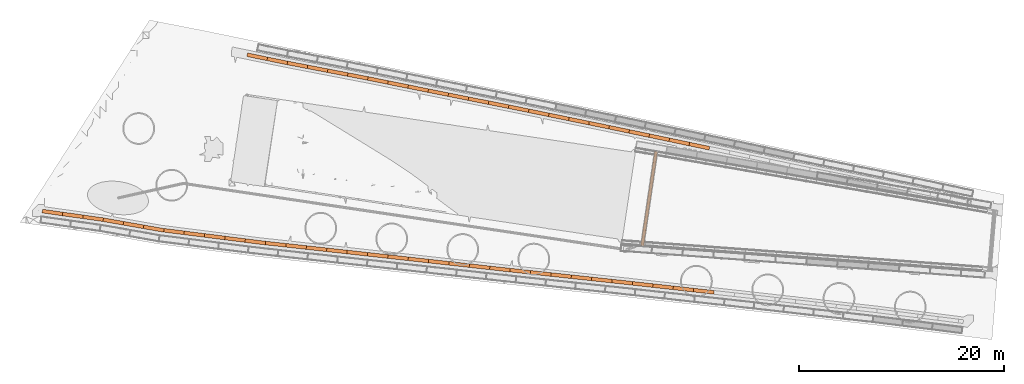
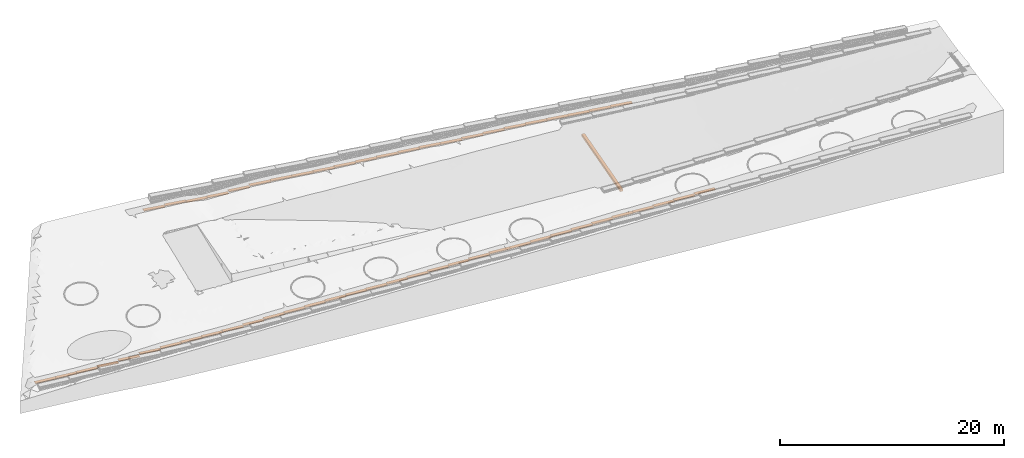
# Not in any storey, part 8 of 46: 57 proxies.
"""IFC4 model written with IfcOpenShell, lengths in metres."""

from ifc_helpers import new_model, si_unit, direction, frame, origin_with_axes, place, context, subcontext, project, spatial, polyline, outline, extrude, material, element, save


model = new_model("IFC4")

# Units and contexts
model_context = context("Model", 3, precision=1e-05, world=origin_with_axes(), true_north=direction((0.0, 1.0)))
body_context = subcontext(model_context, "Body", "Model", "MODEL_VIEW")
ifc_project = project(units=[si_unit("VOLUMEUNIT", "CUBIC_METRE"), si_unit("LENGTHUNIT", "METRE"), si_unit("AREAUNIT", "SQUARE_METRE")], contexts=[model_context])

# Site
site_placement = place(None, origin_with_axes())
site = spatial("IfcSite", under=ifc_project, at=site_placement, Name="Lares · Rua das Mercês · artigo 4771")

# Proxies
ifc_material_1 = material(Name="Caleiras · betão", Category="concrete")
proxy_1_placement = place(site_placement, frame((0.0, 0.0, 13.34), z_axis=(0.0, 0.0, 1.0), x_axis=(1.0, -1.03767253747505e-17, 0.0)))
element("IfcBuildingElementProxy", 1, at=proxy_1_placement, inside=site, material=ifc_material_1, Name="Interceção · caleira estacionamento", ObjectType="Interceção · caleira estacionamento", PredefinedType="USERDEFINED", context=body_context, shape_type="SweptSolid", body=[
    extrude(outline(polyline([(49.7868647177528, 11.8342194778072), (50.0836643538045, 11.7905162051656), (48.728557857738, 2.58765585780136), (48.4317582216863, 2.631359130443), (49.7868647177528, 11.8342194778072)])), origin_with_axes(), (0.0, 0.0, 1.0), 0.25),
])
ifc_material_2 = material(Name="Brita drenante", Category="stone")
proxy_2_placement = place(site_placement, frame((0.0, 0.0, 13.4738156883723), z_axis=(0.0, 0.0, 1.0), x_axis=(1.0, -1.03767253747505e-17, 0.0)))
element("IfcBuildingElementProxy", 2, at=proxy_2_placement, inside=site, material=ifc_material_2, Name="Limite north · vala de interceção", ObjectType="Limite north · vala de interceção", PredefinedType="USERDEFINED", context=body_context, shape_type="SweptSolid", body=[
    extrude(outline(polyline([(12.0458830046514, 21.0135119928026), (11.9733673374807, 20.6608911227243), (10.0143625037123, 21.0637559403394), (10.086878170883, 21.4163768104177), (12.0458830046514, 21.0135119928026)])), origin_with_axes(), (0.0, 0.0, 1.0), 0.06),
])
proxy_3_placement = place(site_placement, frame((0.0, 0.0, 13.5828101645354), z_axis=(0.0, 0.0, 1.0), x_axis=(1.0, -1.03767253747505e-17, 0.0)))
element("IfcBuildingElementProxy", 3, at=proxy_3_placement, inside=site, material=ifc_material_2, Name="Limite north · vala de interceção", ObjectType="Limite north · vala de interceção", PredefinedType="USERDEFINED", context=body_context, shape_type="SweptSolid", body=[
    extrude(outline(polyline([(13.7537541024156, 20.6622922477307), (14.0032633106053, 20.6143063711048), (13.935273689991, 20.2607849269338), (13.684631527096, 20.3089886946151), (13.6823685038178, 20.3094389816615), (11.9733673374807, 20.6608911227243), (12.0458830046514, 21.0135119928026), (13.7537541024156, 20.6622922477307)])), origin_with_axes(), (0.0, 0.0, 1.0), 0.06),
])
proxy_4_placement = place(site_placement, frame((0.0, 0.0, 13.5164708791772), z_axis=(0.0, 0.0, 1.0), x_axis=(1.0, -1.03767253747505e-17, 0.0)))
element("IfcBuildingElementProxy", 4, at=proxy_4_placement, inside=site, material=ifc_material_2, Name="Limite north · vala de interceção", ObjectType="Limite north · vala de interceção", PredefinedType="USERDEFINED", context=body_context, shape_type="SweptSolid", body=[
    extrude(outline(polyline([(15.9672713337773, 20.2365862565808), (15.899281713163, 19.8830648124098), (13.935273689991, 20.2607849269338), (14.0032633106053, 20.6143063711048), (15.9672713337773, 20.2365862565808)])), origin_with_axes(), (0.0, 0.0, 1.0), 0.06),
])
proxy_5_placement = place(site_placement, frame((0.0, 0.0, 13.558468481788), z_axis=(0.0, 0.0, 1.0), x_axis=(1.0, -1.03767253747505e-17, 0.0)))
element("IfcBuildingElementProxy", 5, at=proxy_5_placement, inside=site, material=ifc_material_2, Name="Limite north · vala de interceção", ObjectType="Limite north · vala de interceção", PredefinedType="USERDEFINED", context=body_context, shape_type="SweptSolid", body=[
    extrude(outline(polyline([(17.9312793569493, 19.8588661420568), (17.863289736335, 19.5053446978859), (15.899281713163, 19.8830648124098), (15.9672713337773, 20.2365862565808), (17.9312793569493, 19.8588661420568)])), origin_with_axes(), (0.0, 0.0, 1.0), 0.06),
])
proxy_6_placement = place(site_placement, frame((0.0, 0.0, 13.7632660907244), z_axis=(0.0, 0.0, 1.0), x_axis=(1.0, -1.03767253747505e-17, 0.0)))
element("IfcBuildingElementProxy", 6, at=proxy_6_placement, inside=site, material=ifc_material_2, Name="Limite north · vala de interceção", ObjectType="Limite north · vala de interceção", PredefinedType="USERDEFINED", context=body_context, shape_type="SweptSolid", body=[
    extrude(outline(polyline([(19.8952873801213, 19.4811460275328), (19.827297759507, 19.1276245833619), (17.863289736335, 19.5053446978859), (17.9312793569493, 19.8588661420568), (19.8952873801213, 19.4811460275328)])), origin_with_axes(), (0.0, 0.0, 1.0), 0.06),
])
proxy_7_placement = place(site_placement, frame((0.0, 0.0, 13.9369848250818), z_axis=(0.0, 0.0, 1.0), x_axis=(1.0, -1.03767253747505e-17, 0.0)))
element("IfcBuildingElementProxy", 7, at=proxy_7_placement, inside=site, material=ifc_material_2, Name="Limite north · vala de interceção", ObjectType="Limite north · vala de interceção", PredefinedType="USERDEFINED", context=body_context, shape_type="SweptSolid", body=[
    extrude(outline(polyline([(21.807899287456, 19.1133104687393), (21.8096475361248, 19.1129652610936), (21.8609432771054, 19.1025723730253), (21.7894571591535, 18.7497413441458), (21.7390346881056, 18.7599573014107), (19.827297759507, 19.1276245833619), (19.8952873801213, 19.4811460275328), (21.807899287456, 19.1133104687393)])), origin_with_axes(), (0.0, 0.0, 1.0), 0.06),
])
proxy_8_placement = place(site_placement, frame((0.0, 0.0, 13.9992573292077), z_axis=(0.0, 0.0, 1.0), x_axis=(1.0, -1.03767253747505e-17, 0.0)))
element("IfcBuildingElementProxy", 8, at=proxy_8_placement, inside=site, material=ifc_material_2, Name="Limite north · vala de interceção", ObjectType="Limite north · vala de interceção", PredefinedType="USERDEFINED", context=body_context, shape_type="SweptSolid", body=[
    extrude(outline(polyline([(23.8211156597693, 18.7054272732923), (23.7496295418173, 18.3525962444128), (21.7894571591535, 18.7497413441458), (21.8609432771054, 19.1025723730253), (23.8211156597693, 18.7054272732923)])), origin_with_axes(), (0.0, 0.0, 1.0), 0.06),
])
proxy_9_placement = place(site_placement, frame((0.0, 0.0, 14.0174718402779), z_axis=(0.0, 0.0, 1.0), x_axis=(1.0, -1.03767253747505e-17, 0.0)))
element("IfcBuildingElementProxy", 9, at=proxy_9_placement, inside=site, material=ifc_material_2, Name="Limite north · vala de interceção", ObjectType="Limite north · vala de interceção", PredefinedType="USERDEFINED", context=body_context, shape_type="SweptSolid", body=[
    extrude(outline(polyline([(25.7812880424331, 18.3082821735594), (25.7098019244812, 17.9554511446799), (23.7496295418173, 18.3525962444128), (23.8211156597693, 18.7054272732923), (25.7812880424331, 18.3082821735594)])), origin_with_axes(), (0.0, 0.0, 1.0), 0.06),
])
proxy_10_placement = place(site_placement, frame((0.0, 0.0, 14.0656124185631), z_axis=(0.0, 0.0, 1.0), x_axis=(1.0, -1.03767253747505e-17, 0.0)))
element("IfcBuildingElementProxy", 10, at=proxy_10_placement, inside=site, material=ifc_material_2, Name="Limite north · vala de interceção", ObjectType="Limite north · vala de interceção", PredefinedType="USERDEFINED", context=body_context, shape_type="SweptSolid", body=[
    extrude(outline(polyline([(27.565370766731, 17.9468141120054), (27.7410391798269, 17.9117680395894), (27.6706066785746, 17.5587251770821), (27.4946747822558, 17.593823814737), (27.494147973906, 17.5939297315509), (25.7098019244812, 17.9554511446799), (25.7812880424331, 18.3082821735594), (27.565370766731, 17.9468141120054)])), origin_with_axes(), (0.0, 0.0, 1.0), 0.06),
])
proxy_11_placement = place(site_placement, frame((0.0, 0.0, 14.1510970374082), z_axis=(0.0, 0.0, 1.0), x_axis=(1.0, -1.03767253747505e-17, 0.0)))
element("IfcBuildingElementProxy", 11, at=proxy_11_placement, inside=site, material=ifc_material_2, Name="Limite north · vala de interceção", ObjectType="Limite north · vala de interceção", PredefinedType="USERDEFINED", context=body_context, shape_type="SweptSolid", body=[
    extrude(outline(polyline([(29.7023884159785, 17.5204763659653), (29.6319559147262, 17.167433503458), (27.6706066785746, 17.5587251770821), (27.7410391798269, 17.9117680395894), (29.7023884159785, 17.5204763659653)])), origin_with_axes(), (0.0, 0.0, 1.0), 0.06),
])
proxy_12_placement = place(site_placement, frame((0.0, 0.0, 14.2234581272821), z_axis=(0.0, 0.0, 1.0), x_axis=(1.0, -1.03767253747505e-17, 0.0)))
element("IfcBuildingElementProxy", 12, at=proxy_12_placement, inside=site, material=ifc_material_2, Name="Limite north · vala de interceção", ObjectType="Limite north · vala de interceção", PredefinedType="USERDEFINED", context=body_context, shape_type="SweptSolid", body=[
    extrude(outline(polyline([(31.6637376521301, 17.1291846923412), (31.5933051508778, 16.7761418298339), (29.6319559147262, 17.167433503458), (29.7023884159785, 17.5204763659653), (31.6637376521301, 17.1291846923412)])), origin_with_axes(), (0.0, 0.0, 1.0), 0.06),
])
proxy_13_placement = place(site_placement, frame((0.0, 0.0, 14.2939755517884), z_axis=(0.0, 0.0, 1.0), x_axis=(1.0, -1.03767253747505e-17, 0.0)))
element("IfcBuildingElementProxy", 13, at=proxy_13_placement, inside=site, material=ifc_material_2, Name="Limite north · vala de interceção", ObjectType="Limite north · vala de interceção", PredefinedType="USERDEFINED", context=body_context, shape_type="SweptSolid", body=[
    extrude(outline(polyline([(33.6250868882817, 16.7378930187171), (33.5546543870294, 16.3848501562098), (31.5933051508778, 16.7761418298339), (31.6637376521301, 17.1291846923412), (33.6250868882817, 16.7378930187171)])), origin_with_axes(), (0.0, 0.0, 1.0), 0.06),
])
proxy_14_placement = place(site_placement, frame((0.0, 0.0, 14.3644929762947), z_axis=(0.0, 0.0, 1.0), x_axis=(1.0, -1.03767253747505e-17, 0.0)))
element("IfcBuildingElementProxy", 14, at=proxy_14_placement, inside=site, material=ifc_material_2, Name="Limite north · vala de interceção", ObjectType="Limite north · vala de interceção", PredefinedType="USERDEFINED", context=body_context, shape_type="SweptSolid", body=[
    extrude(outline(polyline([(35.5864361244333, 16.346601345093), (35.5160036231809, 15.9935584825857), (33.5546543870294, 16.3848501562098), (33.6250868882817, 16.7378930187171), (35.5864361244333, 16.346601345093)])), origin_with_axes(), (0.0, 0.0, 1.0), 0.06),
])
proxy_15_placement = place(site_placement, frame((0.0, 0.0, 14.4349426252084), z_axis=(0.0, 0.0, 1.0), x_axis=(1.0, -1.03767253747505e-17, 0.0)))
element("IfcBuildingElementProxy", 15, at=proxy_15_placement, inside=site, material=ifc_material_2, Name="Limite north · vala de interceção", ObjectType="Limite north · vala de interceção", PredefinedType="USERDEFINED", context=body_context, shape_type="SweptSolid", body=[
    extrude(outline(polyline([(36.3861439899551, 16.187058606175), (36.3870338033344, 16.1868787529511), (37.5474916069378, 15.9492741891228), (37.4752794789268, 15.5965910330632), (36.3152663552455, 15.83410454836), (35.5160036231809, 15.9935584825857), (35.5864361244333, 16.346601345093), (36.3861439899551, 16.187058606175)])), origin_with_axes(), (0.0, 0.0, 1.0), 0.06),
])
proxy_16_placement = place(site_placement, frame((0.0, 0.0, 14.437421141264), z_axis=(0.0, 0.0, 1.0), x_axis=(1.0, -1.03767253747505e-17, 0.0)))
element("IfcBuildingElementProxy", 16, at=proxy_16_placement, inside=site, material=ifc_material_2, Name="Limite north · vala de interceção", ObjectType="Limite north · vala de interceção", PredefinedType="USERDEFINED", context=body_context, shape_type="SweptSolid", body=[
    extrude(outline(polyline([(39.5068424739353, 15.548095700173), (39.4346303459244, 15.1954125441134), (37.4752794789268, 15.5965910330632), (37.5474916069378, 15.9492741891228), (39.5068424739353, 15.548095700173)])), origin_with_axes(), (0.0, 0.0, 1.0), 0.06),
])
proxy_17_placement = place(site_placement, frame((0.0, 0.0, 14.5450334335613), z_axis=(0.0, 0.0, 1.0), x_axis=(1.0, -1.03767253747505e-17, 0.0)))
element("IfcBuildingElementProxy", 17, at=proxy_17_placement, inside=site, material=ifc_material_2, Name="Limite north · vala de interceção", ObjectType="Limite north · vala de interceção", PredefinedType="USERDEFINED", context=body_context, shape_type="SweptSolid", body=[
    extrude(outline(polyline([(41.4661933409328, 15.1469172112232), (41.3939812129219, 14.7942340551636), (39.4346303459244, 15.1954125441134), (39.5068424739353, 15.548095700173), (41.4661933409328, 15.1469172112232)])), origin_with_axes(), (0.0, 0.0, 1.0), 0.06),
])
proxy_18_placement = place(site_placement, frame((0.0, 0.0, 14.6526457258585), z_axis=(0.0, 0.0, 1.0), x_axis=(1.0, -1.03767253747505e-17, 0.0)))
element("IfcBuildingElementProxy", 18, at=proxy_18_placement, inside=site, material=ifc_material_2, Name="Limite north · vala de interceção", ObjectType="Limite north · vala de interceção", PredefinedType="USERDEFINED", context=body_context, shape_type="SweptSolid", body=[
    extrude(outline(polyline([(43.4255442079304, 14.7457387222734), (43.3533320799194, 14.3930555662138), (41.3939812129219, 14.7942340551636), (41.4661933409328, 15.1469172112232), (43.4255442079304, 14.7457387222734)])), origin_with_axes(), (0.0, 0.0, 1.0), 0.06),
])
proxy_19_placement = place(site_placement, frame((0.0, 0.0, 14.7427260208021), z_axis=(0.0, 0.0, 1.0), x_axis=(1.0, -1.03767253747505e-17, 0.0)))
element("IfcBuildingElementProxy", 19, at=proxy_19_placement, inside=site, material=ifc_material_2, Name="Limite north · vala de interceção", ObjectType="Limite north · vala de interceção", PredefinedType="USERDEFINED", context=body_context, shape_type="SweptSolid", body=[
    extrude(outline(polyline([(45.3848950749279, 14.3445602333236), (45.3126829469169, 13.991877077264), (43.3533320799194, 14.3930555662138), (43.4255442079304, 14.7457387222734), (45.3848950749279, 14.3445602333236)])), origin_with_axes(), (0.0, 0.0, 1.0), 0.06),
])
proxy_20_placement = place(site_placement, frame((0.0, 0.0, 14.8053566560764), z_axis=(0.0, 0.0, 1.0), x_axis=(1.0, -1.03767253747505e-17, 0.0)))
element("IfcBuildingElementProxy", 20, at=proxy_20_placement, inside=site, material=ifc_material_2, Name="Limite north · vala de interceção", ObjectType="Limite north · vala de interceção", PredefinedType="USERDEFINED", context=body_context, shape_type="SweptSolid", body=[
    extrude(outline(polyline([(45.8690664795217, 14.2454257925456), (45.8699313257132, 14.2452465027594), (47.3436109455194, 13.9359676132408), (47.2696691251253, 13.5836430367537), (45.7964217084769, 13.8928312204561), (45.3126829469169, 13.991877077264), (45.3848950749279, 14.3445602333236), (45.8690664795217, 14.2454257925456)])), origin_with_axes(), (0.0, 0.0, 1.0), 0.06),
])
proxy_21_placement = place(site_placement, frame((0.0, 0.0, 14.8355579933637), z_axis=(0.0, 0.0, 1.0), x_axis=(1.0, -1.03767253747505e-17, 0.0)))
element("IfcBuildingElementProxy", 21, at=proxy_21_placement, inside=site, material=ifc_material_2, Name="Limite north · vala de interceção", ObjectType="Limite north · vala de interceção", PredefinedType="USERDEFINED", context=body_context, shape_type="SweptSolid", body=[
    extrude(outline(polyline([(49.3009697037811, 13.5251797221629), (49.227027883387, 13.1728551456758), (47.2696691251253, 13.5836430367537), (47.3436109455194, 13.9359676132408), (49.3009697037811, 13.5251797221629)])), origin_with_axes(), (0.0, 0.0, 1.0), 0.06),
])
proxy_22_placement = place(site_placement, frame((0.0, 0.0, 14.862859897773), z_axis=(0.0, 0.0, 1.0), x_axis=(1.0, -1.03767253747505e-17, 0.0)))
element("IfcBuildingElementProxy", 22, at=proxy_22_placement, inside=site, material=ifc_material_2, Name="Limite north · vala de interceção", ObjectType="Limite north · vala de interceção", PredefinedType="USERDEFINED", context=body_context, shape_type="SweptSolid", body=[
    extrude(outline(polyline([(51.2583284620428, 13.1143918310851), (51.1843866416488, 12.762067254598), (49.227027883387, 13.1728551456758), (49.3009697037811, 13.5251797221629), (51.2583284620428, 13.1143918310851)])), origin_with_axes(), (0.0, 0.0, 1.0), 0.06),
])
proxy_23_placement = place(site_placement, frame((0.0, 0.0, 14.9166186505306), z_axis=(0.0, 0.0, 1.0), x_axis=(1.0, -1.03767253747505e-17, 0.0)))
element("IfcBuildingElementProxy", 23, at=proxy_23_placement, inside=site, material=ifc_material_2, Name="Limite north · vala de interceção", ObjectType="Limite north · vala de interceção", PredefinedType="USERDEFINED", context=body_context, shape_type="SweptSolid", body=[
    extrude(outline(polyline([(53.2156872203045, 12.7036039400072), (53.1417453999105, 12.3512793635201), (51.1843866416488, 12.762067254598), (51.2583284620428, 13.1143918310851), (53.2156872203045, 12.7036039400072)])), origin_with_axes(), (0.0, 0.0, 1.0), 0.06),
])
proxy_24_placement = place(site_placement, frame((0.0, 0.0, 14.9682467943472), z_axis=(0.0, 0.0, 1.0), x_axis=(1.0, -1.03767253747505e-17, 0.0)))
element("IfcBuildingElementProxy", 24, at=proxy_24_placement, inside=site, material=ifc_material_2, Name="Limite north · vala de interceção", ObjectType="Limite north · vala de interceção", PredefinedType="USERDEFINED", context=body_context, shape_type="SweptSolid", body=[
    extrude(outline(polyline([(55.1730459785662, 12.2928160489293), (55.0991041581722, 11.9404914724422), (53.1417453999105, 12.3512793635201), (53.2156872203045, 12.7036039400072), (55.1730459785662, 12.2928160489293)])), origin_with_axes(), (0.0, 0.0, 1.0), 0.06),
])
proxy_25_placement = place(site_placement, frame((0.0, 0.0, 10.921681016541), z_axis=(0.0, 0.0, 1.0), x_axis=(1.0, -1.03767253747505e-17, 0.0)))
element("IfcBuildingElementProxy", 25, at=proxy_25_placement, inside=site, material=ifc_material_2, Name="Limite south · vala de interceção", ObjectType="Limite south · vala de interceção", PredefinedType="USERDEFINED", context=body_context, shape_type="SweptSolid", body=[
    extrude(outline(polyline([(-7.92506020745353, 5.88610903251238), (-7.97522409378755, 5.52962118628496), (-9.95571212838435, 5.80830944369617), (-9.90554824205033, 6.1647972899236), (-7.92506020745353, 5.88610903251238)])), origin_with_axes(), (0.0, 0.0, 1.0), 0.06),
])
proxy_26_placement = place(site_placement, frame((0.0, 0.0, 10.9393821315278), z_axis=(0.0, 0.0, 1.0), x_axis=(1.0, -1.03767253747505e-17, 0.0)))
element("IfcBuildingElementProxy", 26, at=proxy_26_placement, inside=site, material=ifc_material_2, Name="Limite south · vala de interceção", ObjectType="Limite south · vala de interceção", PredefinedType="USERDEFINED", context=body_context, shape_type="SweptSolid", body=[
    extrude(outline(polyline([(-5.94457217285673, 5.60742077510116), (-5.99473605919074, 5.25093292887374), (-7.97522409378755, 5.52962118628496), (-7.92506020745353, 5.88610903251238), (-5.94457217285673, 5.60742077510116)])), origin_with_axes(), (0.0, 0.0, 1.0), 0.06),
])
proxy_27_placement = place(site_placement, frame((0.0, 0.0, 10.9819497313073), z_axis=(0.0, 0.0, 1.0), x_axis=(1.0, -1.03767253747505e-17, 0.0)))
element("IfcBuildingElementProxy", 27, at=proxy_27_placement, inside=site, material=ifc_material_2, Name="Limite south · vala de interceção", ObjectType="Limite south · vala de interceção", PredefinedType="USERDEFINED", context=body_context, shape_type="SweptSolid", body=[
    extrude(outline(polyline([(-4.0119916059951, 5.33547391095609), (-4.0057745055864, 5.33448790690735), (-3.95813205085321, 5.32607551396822), (-4.02073013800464, 4.97155967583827), (-4.06527266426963, 4.97942470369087), (-5.99473605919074, 5.25093292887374), (-5.94457217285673, 5.60742077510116), (-4.0119916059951, 5.33547391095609)])), origin_with_axes(), (0.0, 0.0, 1.0), 0.06),
])
proxy_28_placement = place(site_placement, frame((0.0, 0.0, 11.0965665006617), z_axis=(0.0, 0.0, 1.0), x_axis=(1.0, -1.03767253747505e-17, 0.0)))
element("IfcBuildingElementProxy", 28, at=proxy_28_placement, inside=site, material=ifc_material_2, Name="Limite south · vala de interceção", ObjectType="Limite south · vala de interceção", PredefinedType="USERDEFINED", context=body_context, shape_type="SweptSolid", body=[
    extrude(outline(polyline([(-1.98859961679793, 4.97830836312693), (-2.05119770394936, 4.62379252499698), (-4.02073013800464, 4.97155967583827), (-3.95813205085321, 5.32607551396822), (-1.98859961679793, 4.97830836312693)])), origin_with_axes(), (0.0, 0.0, 1.0), 0.06),
])
proxy_29_placement = place(site_placement, frame((0.0, 0.0, 11.314682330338), z_axis=(0.0, 0.0, 1.0), x_axis=(1.0, -1.03767253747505e-17, 0.0)))
element("IfcBuildingElementProxy", 29, at=proxy_29_placement, inside=site, material=ifc_material_2, Name="Limite south · vala de interceção", ObjectType="Limite south · vala de interceção", PredefinedType="USERDEFINED", context=body_context, shape_type="SweptSolid", body=[
    extrude(outline(polyline([(-0.019067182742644, 4.63054121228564), (-0.081665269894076, 4.27602537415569), (-2.05119770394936, 4.62379252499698), (-1.98859961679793, 4.97830836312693), (-0.019067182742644, 4.63054121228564)])), origin_with_axes(), (0.0, 0.0, 1.0), 0.06),
])
proxy_30_placement = place(site_placement, frame((0.0, 0.0, 11.5619240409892), z_axis=(0.0, 0.0, 1.0), x_axis=(1.0, -1.03767253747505e-17, 0.0)))
element("IfcBuildingElementProxy", 30, at=proxy_30_placement, inside=site, material=ifc_material_2, Name="Limite south · vala de interceção", ObjectType="Limite south · vala de interceção", PredefinedType="USERDEFINED", context=body_context, shape_type="SweptSolid", body=[
    extrude(outline(polyline([(1.69864220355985, 4.32723932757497), (1.94361428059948, 4.29622234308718), (1.89839413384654, 3.93907372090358), (1.64906149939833, 3.97064281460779), (1.64037252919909, 3.97195920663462), (-0.0816652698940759, 4.27602537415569), (-0.019067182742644, 4.63054121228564), (1.69864220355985, 4.32723932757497)])), origin_with_axes(), (0.0, 0.0, 1.0), 0.06),
])
proxy_31_placement = place(site_placement, frame((0.0, 0.0, 11.7044998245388), z_axis=(0.0, 0.0, 1.0), x_axis=(1.0, -1.03767253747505e-17, 0.0)))
element("IfcBuildingElementProxy", 31, at=proxy_31_placement, inside=site, material=ifc_material_2, Name="Limite south · vala de interceção", ObjectType="Limite south · vala de interceção", PredefinedType="USERDEFINED", context=body_context, shape_type="SweptSolid", body=[
    extrude(outline(polyline([(3.92777329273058, 4.04499930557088), (3.88255314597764, 3.68785068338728), (1.89839413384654, 3.93907372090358), (1.94361428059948, 4.29622234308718), (3.92777329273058, 4.04499930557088)])), origin_with_axes(), (0.0, 0.0, 1.0), 0.06),
])
proxy_32_placement = place(site_placement, frame((0.0, 0.0, 11.7661044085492), z_axis=(0.0, 0.0, 1.0), x_axis=(1.0, -1.03767253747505e-17, 0.0)))
element("IfcBuildingElementProxy", 32, at=proxy_32_placement, inside=site, material=ifc_material_2, Name="Limite south · vala de interceção", ObjectType="Limite south · vala de interceção", PredefinedType="USERDEFINED", context=body_context, shape_type="SweptSolid", body=[
    extrude(outline(polyline([(5.91193230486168, 3.79377626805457), (5.86671215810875, 3.43662764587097), (3.88255314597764, 3.68785068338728), (3.92777329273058, 4.04499930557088), (5.91193230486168, 3.79377626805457)])), origin_with_axes(), (0.0, 0.0, 1.0), 0.06),
])
proxy_33_placement = place(site_placement, frame((0.0, 0.0, 11.8277089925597), z_axis=(0.0, 0.0, 1.0), x_axis=(1.0, -1.03767253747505e-17, 0.0)))
element("IfcBuildingElementProxy", 33, at=proxy_33_placement, inside=site, material=ifc_material_2, Name="Limite south · vala de interceção", ObjectType="Limite south · vala de interceção", PredefinedType="USERDEFINED", context=body_context, shape_type="SweptSolid", body=[
    extrude(outline(polyline([(7.89609131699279, 3.54255323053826), (7.85087117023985, 3.18540460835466), (5.86671215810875, 3.43662764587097), (5.91193230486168, 3.79377626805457), (7.89609131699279, 3.54255323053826)])), origin_with_axes(), (0.0, 0.0, 1.0), 0.06),
])
proxy_34_placement = place(site_placement, frame((0.0, 0.0, 11.8893135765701), z_axis=(0.0, 0.0, 1.0), x_axis=(1.0, -1.03767253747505e-17, 0.0)))
element("IfcBuildingElementProxy", 34, at=proxy_34_placement, inside=site, material=ifc_material_2, Name="Limite south · vala de interceção", ObjectType="Limite south · vala de interceção", PredefinedType="USERDEFINED", context=body_context, shape_type="SweptSolid", body=[
    extrude(outline(polyline([(9.88025032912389, 3.29133019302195), (9.83503018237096, 2.93418157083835), (7.85087117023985, 3.18540460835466), (7.89609131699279, 3.54255323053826), (9.88025032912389, 3.29133019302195)])), origin_with_axes(), (0.0, 0.0, 1.0), 0.06),
])
proxy_35_placement = place(site_placement, frame((0.0, 0.0, 12.0238253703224), z_axis=(0.0, 0.0, 1.0), x_axis=(1.0, -1.03767253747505e-17, 0.0)))
element("IfcBuildingElementProxy", 35, at=proxy_35_placement, inside=site, material=ifc_material_2, Name="Limite south · vala de interceção", ObjectType="Limite south · vala de interceção", PredefinedType="USERDEFINED", context=body_context, shape_type="SweptSolid", body=[
    extrude(outline(polyline([(11.2335174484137, 3.11998713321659), (11.8627287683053, 3.05061714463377), (11.8232781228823, 2.6927852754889), (11.192623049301, 2.76231443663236), (11.189738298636, 2.762656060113), (9.83503018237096, 2.93418157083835), (9.88025032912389, 3.29133019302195), (11.2335174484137, 3.11998713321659)])), origin_with_axes(), (0.0, 0.0, 1.0), 0.06),
])
proxy_36_placement = place(site_placement, frame((0.0, 0.0, 12.1612662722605), z_axis=(0.0, 0.0, 1.0), x_axis=(1.0, -1.03767253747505e-17, 0.0)))
element("IfcBuildingElementProxy", 36, at=proxy_36_placement, inside=site, material=ifc_material_2, Name="Limite south · vala de interceção", ObjectType="Limite south · vala de interceção", PredefinedType="USERDEFINED", context=body_context, shape_type="SweptSolid", body=[
    extrude(outline(polyline([(13.8506835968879, 2.83144689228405), (13.8112329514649, 2.47361502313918), (11.8232781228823, 2.6927852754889), (11.8627287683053, 3.05061714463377), (13.8506835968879, 2.83144689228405)])), origin_with_axes(), (0.0, 0.0, 1.0), 0.06),
])
proxy_37_placement = place(site_placement, frame((0.0, 0.0, 12.2467318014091), z_axis=(0.0, 0.0, 1.0), x_axis=(1.0, -1.03767253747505e-17, 0.0)))
element("IfcBuildingElementProxy", 37, at=proxy_37_placement, inside=site, material=ifc_material_2, Name="Limite south · vala de interceção", ObjectType="Limite south · vala de interceção", PredefinedType="USERDEFINED", context=body_context, shape_type="SweptSolid", body=[
    extrude(outline(polyline([(15.8386384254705, 2.61227663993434), (15.7991877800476, 2.25444477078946), (13.8112329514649, 2.47361502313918), (13.8506835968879, 2.83144689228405), (15.8386384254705, 2.61227663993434)])), origin_with_axes(), (0.0, 0.0, 1.0), 0.06),
])
proxy_38_placement = place(site_placement, frame((0.0, 0.0, 12.3321973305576), z_axis=(0.0, 0.0, 1.0), x_axis=(1.0, -1.03767253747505e-17, 0.0)))
element("IfcBuildingElementProxy", 38, at=proxy_38_placement, inside=site, material=ifc_material_2, Name="Limite south · vala de interceção", ObjectType="Limite south · vala de interceção", PredefinedType="USERDEFINED", context=body_context, shape_type="SweptSolid", body=[
    extrude(outline(polyline([(17.8265932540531, 2.39310638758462), (17.7871426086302, 2.03527451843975), (15.7991877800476, 2.25444477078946), (15.8386384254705, 2.61227663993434), (17.8265932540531, 2.39310638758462)])), origin_with_axes(), (0.0, 0.0, 1.0), 0.06),
])
proxy_39_placement = place(site_placement, frame((0.0, 0.0, 12.4130196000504), z_axis=(0.0, 0.0, 1.0), x_axis=(1.0, -1.03767253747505e-17, 0.0)))
element("IfcBuildingElementProxy", 39, at=proxy_39_placement, inside=site, material=ifc_material_2, Name="Limite south · vala de interceção", ObjectType="Limite south · vala de interceção", PredefinedType="USERDEFINED", context=body_context, shape_type="SweptSolid", body=[
    extrude(outline(polyline([(19.8145480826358, 2.1739361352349), (19.7750974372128, 1.81610426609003), (17.7871426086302, 2.03527451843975), (17.8265932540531, 2.39310638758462), (19.8145480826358, 2.1739361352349)])), origin_with_axes(), (0.0, 0.0, 1.0), 0.06),
])
proxy_40_placement = place(site_placement, frame((0.0, 0.0, 12.4859319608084), z_axis=(0.0, 0.0, 1.0), x_axis=(1.0, -1.03767253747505e-17, 0.0)))
element("IfcBuildingElementProxy", 40, at=proxy_40_placement, inside=site, material=ifc_material_2, Name="Limite south · vala de interceção", ObjectType="Limite south · vala de interceção", PredefinedType="USERDEFINED", context=body_context, shape_type="SweptSolid", body=[
    extrude(outline(polyline([(21.8025029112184, 1.95476588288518), (21.7630522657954, 1.59693401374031), (19.7750974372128, 1.81610426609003), (19.8145480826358, 2.1739361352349), (21.8025029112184, 1.95476588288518)])), origin_with_axes(), (0.0, 0.0, 1.0), 0.06),
])
proxy_41_placement = place(site_placement, frame((0.0, 0.0, 12.5417426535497), z_axis=(0.0, 0.0, 1.0), x_axis=(1.0, -1.03767253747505e-17, 0.0)))
element("IfcBuildingElementProxy", 41, at=proxy_41_placement, inside=site, material=ifc_material_2, Name="Limite south · vala de interceção", ObjectType="Limite south · vala de interceção", PredefinedType="USERDEFINED", context=body_context, shape_type="SweptSolid", body=[
    extrude(outline(polyline([(23.621795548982, 1.75419048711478), (23.6220143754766, 1.7541662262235), (23.7906536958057, 1.73536508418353), (23.7507653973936, 1.3775817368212), (23.582235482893, 1.39637068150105), (21.7630522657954, 1.59693401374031), (21.8025029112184, 1.95476588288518), (23.621795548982, 1.75419048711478)])), origin_with_axes(), (0.0, 0.0, 1.0), 0.06),
])
proxy_42_placement = place(site_placement, frame((0.0, 0.0, 12.6188147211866), z_axis=(0.0, 0.0, 1.0), x_axis=(1.0, -1.03767253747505e-17, 0.0)))
element("IfcBuildingElementProxy", 42, at=proxy_42_placement, inside=site, material=ifc_material_2, Name="Limite south · vala de interceção", ObjectType="Limite south · vala de interceção", PredefinedType="USERDEFINED", context=body_context, shape_type="SweptSolid", body=[
    extrude(outline(polyline([(25.7783389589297, 1.5137634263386), (25.7384506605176, 1.15598007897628), (23.7507653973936, 1.3775817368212), (23.7906536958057, 1.73536508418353), (25.7783389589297, 1.5137634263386)])), origin_with_axes(), (0.0, 0.0, 1.0), 0.06),
])
proxy_43_placement = place(site_placement, frame((0.0, 0.0, 12.7191830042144), z_axis=(0.0, 0.0, 1.0), x_axis=(1.0, -1.03767253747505e-17, 0.0)))
element("IfcBuildingElementProxy", 43, at=proxy_43_placement, inside=site, material=ifc_material_2, Name="Limite south · vala de interceção", ObjectType="Limite south · vala de interceção", PredefinedType="USERDEFINED", context=body_context, shape_type="SweptSolid", body=[
    extrude(outline(polyline([(27.7660242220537, 1.29216176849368), (27.7261359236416, 0.934378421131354), (25.7384506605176, 1.15598007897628), (25.7783389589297, 1.5137634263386), (27.7660242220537, 1.29216176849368)])), origin_with_axes(), (0.0, 0.0, 1.0), 0.06),
])
proxy_44_placement = place(site_placement, frame((0.0, 0.0, 12.8193544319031), z_axis=(0.0, 0.0, 1.0), x_axis=(1.0, -1.03767253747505e-17, 0.0)))
element("IfcBuildingElementProxy", 44, at=proxy_44_placement, inside=site, material=ifc_material_2, Name="Limite south · vala de interceção", ObjectType="Limite south · vala de interceção", PredefinedType="USERDEFINED", context=body_context, shape_type="SweptSolid", body=[
    extrude(outline(polyline([(29.7537094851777, 1.07056011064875), (29.7138211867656, 0.712776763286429), (27.7261359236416, 0.934378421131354), (27.7660242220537, 1.29216176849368), (29.7537094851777, 1.07056011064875)])), origin_with_axes(), (0.0, 0.0, 1.0), 0.06),
])
proxy_45_placement = place(site_placement, frame((0.0, 0.0, 12.9183907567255), z_axis=(0.0, 0.0, 1.0), x_axis=(1.0, -1.03767253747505e-17, 0.0)))
element("IfcBuildingElementProxy", 45, at=proxy_45_placement, inside=site, material=ifc_material_2, Name="Limite south · vala de interceção", ObjectType="Limite south · vala de interceção", PredefinedType="USERDEFINED", context=body_context, shape_type="SweptSolid", body=[
    extrude(outline(polyline([(31.7413947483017, 0.848958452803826), (31.7015064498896, 0.491175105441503), (29.7138211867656, 0.712776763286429), (29.7537094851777, 1.07056011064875), (31.7413947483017, 0.848958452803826)])), origin_with_axes(), (0.0, 0.0, 1.0), 0.06),
])
proxy_46_placement = place(site_placement, frame((0.0, 0.0, 13.0174270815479), z_axis=(0.0, 0.0, 1.0), x_axis=(1.0, -1.03767253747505e-17, 0.0)))
element("IfcBuildingElementProxy", 46, at=proxy_46_placement, inside=site, material=ifc_material_2, Name="Limite south · vala de interceção", ObjectType="Limite south · vala de interceção", PredefinedType="USERDEFINED", context=body_context, shape_type="SweptSolid", body=[
    extrude(outline(polyline([(33.7290800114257, 0.627356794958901), (33.6891917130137, 0.269573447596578), (31.7015064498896, 0.491175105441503), (31.7413947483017, 0.848958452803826), (33.7290800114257, 0.627356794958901)])), origin_with_axes(), (0.0, 0.0, 1.0), 0.06),
])
proxy_47_placement = place(site_placement, frame((0.0, 0.0, 13.1164634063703), z_axis=(0.0, 0.0, 1.0), x_axis=(1.0, -1.03767253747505e-17, 0.0)))
element("IfcBuildingElementProxy", 47, at=proxy_47_placement, inside=site, material=ifc_material_2, Name="Limite south · vala de interceção", ObjectType="Limite south · vala de interceção", PredefinedType="USERDEFINED", context=body_context, shape_type="SweptSolid", body=[
    extrude(outline(polyline([(35.2866373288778, 0.453708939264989), (35.7162568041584, 0.407488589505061), (35.6777486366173, 0.0495540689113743), (35.2477840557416, 0.095811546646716), (35.247093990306, 0.0958871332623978), (33.6891917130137, 0.269573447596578), (33.7290800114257, 0.627356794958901), (35.2866373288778, 0.453708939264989)])), origin_with_axes(), (0.0, 0.0, 1.0), 0.06),
])
proxy_48_placement = place(site_placement, frame((0.0, 0.0, 13.1293433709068), z_axis=(0.0, 0.0, 1.0), x_axis=(1.0, -1.03767253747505e-17, 0.0)))
element("IfcBuildingElementProxy", 48, at=proxy_48_placement, inside=site, material=ifc_material_2, Name="Limite south · vala de interceção", ObjectType="Limite south · vala de interceção", PredefinedType="USERDEFINED", context=body_context, shape_type="SweptSolid", body=[
    extrude(outline(polyline([(37.7047819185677, 0.19355432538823), (37.6662737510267, -0.164380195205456), (35.6777486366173, 0.0495540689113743), (35.7162568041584, 0.407488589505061), (37.7047819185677, 0.19355432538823)])), origin_with_axes(), (0.0, 0.0, 1.0), 0.06),
])
proxy_49_placement = place(site_placement, frame((0.0, 0.0, 13.2167736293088), z_axis=(0.0, 0.0, 1.0), x_axis=(1.0, -1.03767253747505e-17, 0.0)))
element("IfcBuildingElementProxy", 49, at=proxy_49_placement, inside=site, material=ifc_material_2, Name="Limite south · vala de interceção", ObjectType="Limite south · vala de interceção", PredefinedType="USERDEFINED", context=body_context, shape_type="SweptSolid", body=[
    extrude(outline(polyline([(39.6933070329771, -0.0203799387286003), (39.6547988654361, -0.378314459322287), (37.6662737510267, -0.164380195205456), (37.7047819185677, 0.19355432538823), (39.6933070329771, -0.0203799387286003)])), origin_with_axes(), (0.0, 0.0, 1.0), 0.06),
])
proxy_50_placement = place(site_placement, frame((0.0, 0.0, 13.3080985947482), z_axis=(0.0, 0.0, 1.0), x_axis=(1.0, -1.03767253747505e-17, 0.0)))
element("IfcBuildingElementProxy", 50, at=proxy_50_placement, inside=site, material=ifc_material_2, Name="Limite south · vala de interceção", ObjectType="Limite south · vala de interceção", PredefinedType="USERDEFINED", context=body_context, shape_type="SweptSolid", body=[
    extrude(outline(polyline([(41.6818321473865, -0.234314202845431), (41.6433239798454, -0.592248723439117), (39.6547988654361, -0.378314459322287), (39.6933070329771, -0.0203799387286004), (41.6818321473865, -0.234314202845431)])), origin_with_axes(), (0.0, 0.0, 1.0), 0.06),
])
proxy_51_placement = place(site_placement, frame((0.0, 0.0, 13.4083087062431), z_axis=(0.0, 0.0, 1.0), x_axis=(1.0, -1.03767253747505e-17, 0.0)))
element("IfcBuildingElementProxy", 51, at=proxy_51_placement, inside=site, material=ifc_material_2, Name="Limite south · vala de interceção", ObjectType="Limite south · vala de interceção", PredefinedType="USERDEFINED", context=body_context, shape_type="SweptSolid", body=[
    extrude(outline(polyline([(43.6703572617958, -0.448248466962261), (43.6318490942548, -0.806182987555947), (41.6433239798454, -0.592248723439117), (41.6818321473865, -0.234314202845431), (43.6703572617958, -0.448248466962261)])), origin_with_axes(), (0.0, 0.0, 1.0), 0.06),
])
proxy_52_placement = place(site_placement, frame((0.0, 0.0, 13.508518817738), z_axis=(0.0, 0.0, 1.0), x_axis=(1.0, -1.03767253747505e-17, 0.0)))
element("IfcBuildingElementProxy", 52, at=proxy_52_placement, inside=site, material=ifc_material_2, Name="Limite south · vala de interceção", ObjectType="Limite south · vala de interceção", PredefinedType="USERDEFINED", context=body_context, shape_type="SweptSolid", body=[
    extrude(outline(polyline([(45.6588823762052, -0.662182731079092), (45.6203742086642, -1.02011725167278), (43.6318490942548, -0.806182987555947), (43.6703572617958, -0.448248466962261), (45.6588823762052, -0.662182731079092)])), origin_with_axes(), (0.0, 0.0, 1.0), 0.06),
])
proxy_53_placement = place(site_placement, frame((0.0, 0.0, 13.6087289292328), z_axis=(0.0, 0.0, 1.0), x_axis=(1.0, -1.03767253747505e-17, 0.0)))
element("IfcBuildingElementProxy", 53, at=proxy_53_placement, inside=site, material=ifc_material_2, Name="Limite south · vala de interceção", ObjectType="Limite south · vala de interceção", PredefinedType="USERDEFINED", context=body_context, shape_type="SweptSolid", body=[
    extrude(outline(polyline([(47.2895826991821, -0.837620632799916), (47.2901932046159, -0.837687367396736), (47.6478845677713, -0.877404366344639), (47.6081553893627, -1.23520541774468), (47.2507692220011, -1.19552230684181), (45.6203742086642, -1.02011725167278), (45.6588823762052, -0.662182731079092), (47.2895826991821, -0.837620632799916)])), origin_with_axes(), (0.0, 0.0, 1.0), 0.06),
])
proxy_54_placement = place(site_placement, frame((0.0, 0.0, 13.6375161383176), z_axis=(0.0, 0.0, 1.0), x_axis=(1.0, -1.03767253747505e-17, 0.0)))
element("IfcBuildingElementProxy", 54, at=proxy_54_placement, inside=site, material=ifc_material_2, Name="Limite south · vala de interceção", ObjectType="Limite south · vala de interceção", PredefinedType="USERDEFINED", context=body_context, shape_type="SweptSolid", body=[
    extrude(outline(polyline([(49.6356681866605, -1.09812202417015), (49.5959390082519, -1.45592307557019), (47.6081553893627, -1.23520541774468), (47.6478845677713, -0.877404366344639), (49.6356681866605, -1.09812202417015)])), origin_with_axes(), (0.0, 0.0, 1.0), 0.06),
])
proxy_55_placement = place(site_placement, frame((0.0, 0.0, 13.7221213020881), z_axis=(0.0, 0.0, 1.0), x_axis=(1.0, -1.03767253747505e-17, 0.0)))
element("IfcBuildingElementProxy", 55, at=proxy_55_placement, inside=site, material=ifc_material_2, Name="Limite south · vala de interceção", ObjectType="Limite south · vala de interceção", PredefinedType="USERDEFINED", context=body_context, shape_type="SweptSolid", body=[
    extrude(outline(polyline([(51.6234518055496, -1.31883968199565), (51.583722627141, -1.6766407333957), (49.5959390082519, -1.45592307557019), (49.6356681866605, -1.09812202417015), (51.6234518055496, -1.31883968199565)])), origin_with_axes(), (0.0, 0.0, 1.0), 0.06),
])
proxy_56_placement = place(site_placement, frame((0.0, 0.0, 13.813025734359), z_axis=(0.0, 0.0, 1.0), x_axis=(1.0, -1.03767253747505e-17, 0.0)))
element("IfcBuildingElementProxy", 56, at=proxy_56_placement, inside=site, material=ifc_material_2, Name="Limite south · vala de interceção", ObjectType="Limite south · vala de interceção", PredefinedType="USERDEFINED", context=body_context, shape_type="SweptSolid", body=[
    extrude(outline(polyline([(53.6112354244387, -1.53955733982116), (53.5715062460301, -1.89735839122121), (51.583722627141, -1.6766407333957), (51.6234518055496, -1.31883968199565), (53.6112354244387, -1.53955733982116)])), origin_with_axes(), (0.0, 0.0, 1.0), 0.06),
])
proxy_57_placement = place(site_placement, frame((0.0, 0.0, 13.9205195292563), z_axis=(0.0, 0.0, 1.0), x_axis=(1.0, -1.03767253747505e-17, 0.0)))
element("IfcBuildingElementProxy", 57, at=proxy_57_placement, inside=site, material=ifc_material_2, Name="Limite south · vala de interceção", ObjectType="Limite south · vala de interceção", PredefinedType="USERDEFINED", context=body_context, shape_type="SweptSolid", body=[
    extrude(outline(polyline([(55.5990190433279, -1.76027499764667), (55.5592898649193, -2.11807604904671), (53.5715062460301, -1.89735839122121), (53.6112354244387, -1.53955733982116), (55.5990190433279, -1.76027499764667)])), origin_with_axes(), (0.0, 0.0, 1.0), 0.06),
])

save(model, "model.ifc")
